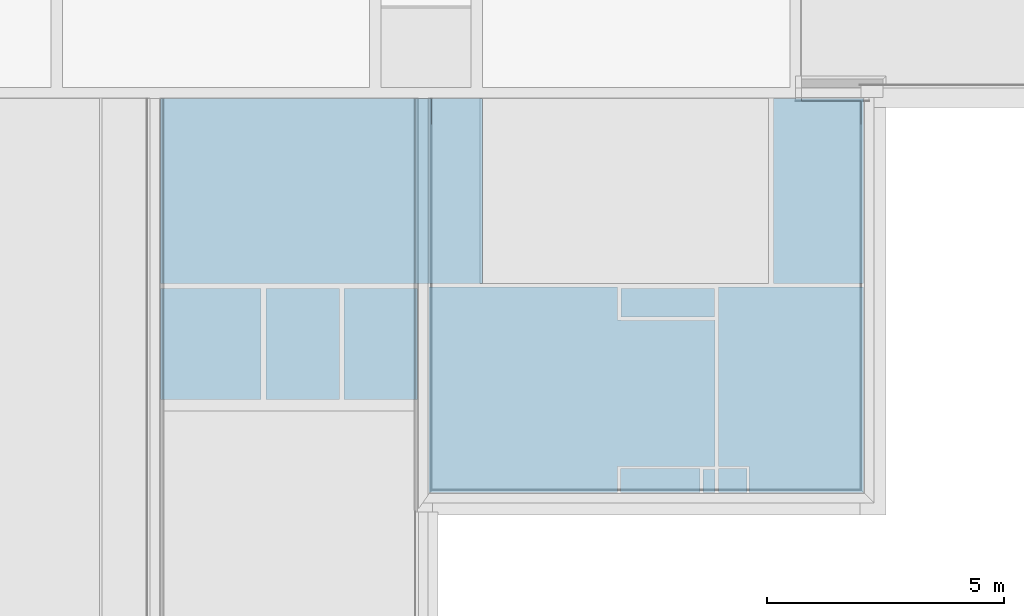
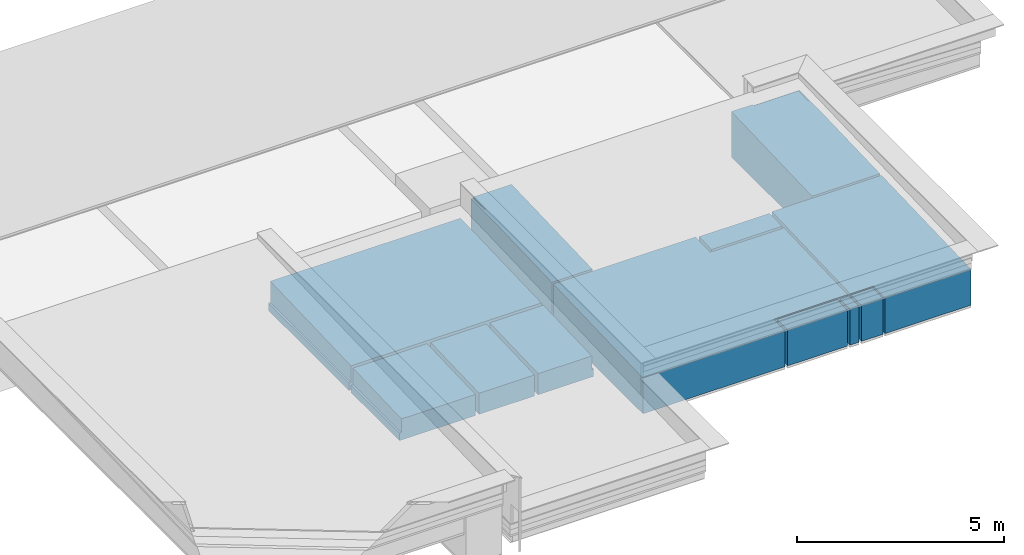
# One storey, part 7 of 13: 1 building element part, 1 element without a shape of its own.
"""IFC2X3 building model written with IfcOpenShell, lengths in metres."""

from ifc_helpers import new_model, entity, si_unit, converted_unit, derived_unit, money_unit, direction, frame, origin_with_axes, place, context, subcontext, project, spatial, polyline, outline, extrude, boolean, faceted_brep, material, type_object, element, aggregate, save


model = new_model("IFC2X3")

# Units and contexts
model_context = context("Model", 3, precision=1e-05, world=origin_with_axes(), true_north=direction((0.0, 1.0)))
body_context = subcontext(model_context, "Body", "Model", "MODEL_VIEW")
ifc_project = project(units=[si_unit("LENGTHUNIT", "METRE"), si_unit("AREAUNIT", "SQUARE_METRE"), si_unit("VOLUMEUNIT", "CUBIC_METRE"), converted_unit("PLANEANGLEUNIT", "DEGREE", entity("IfcPlaneAngleMeasure", 0.0174532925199), si_unit("PLANEANGLEUNIT", "RADIAN"), dimensions=[0, 0, 0, 0, 0, 0, 0]), money_unit("CHF"), converted_unit("TIMEUNIT", "Year", entity("IfcTimeMeasure", 31556926.0), si_unit("TIMEUNIT", "SECOND"), dimensions=[0, 0, 1, 0, 0, 0, 0]), si_unit("MASSUNIT", "GRAM", prefix="KILO"), si_unit("THERMODYNAMICTEMPERATUREUNIT", "DEGREE_CELSIUS"), si_unit("LUMINOUSINTENSITYUNIT", "LUMEN"), si_unit("ENERGYUNIT", "JOULE", prefix="MEGA"), derived_unit("THERMALCONDUCTANCEUNIT", [(si_unit("POWERUNIT", "WATT"), 1), (si_unit("LENGTHUNIT", "METRE"), -1), (si_unit("THERMODYNAMICTEMPERATUREUNIT", "KELVIN"), -1)]), derived_unit("SPECIFICHEATCAPACITYUNIT", [(si_unit("ENERGYUNIT", "JOULE"), 1), (si_unit("MASSUNIT", "GRAM", prefix="KILO"), -1), (si_unit("THERMODYNAMICTEMPERATUREUNIT", "KELVIN"), -1)]), derived_unit("MASSDENSITYUNIT", [(si_unit("MASSUNIT", "GRAM", prefix="KILO"), 1), (si_unit("VOLUMEUNIT", "CUBIC_METRE"), -1)])], contexts=[model_context])

# Site, building, storey
site_placement = place(None, origin_with_axes())
site = spatial("IfcSite", under=ifc_project, at=site_placement, Name="Site", CompositionType="ELEMENT")
building_placement = place(site_placement, origin_with_axes())
building = spatial("IfcBuilding", under=site, at=building_placement, Name="Bâtiment", CompositionType="ELEMENT")
storey_placement = place(building_placement, frame((0.0, 0.0, 3.0), z_axis=(0.0, 0.0, 1.0), x_axis=(1.0, 0.0, 0.0)))
storey = spatial("IfcBuildingStorey", under=building, at=storey_placement, Name="Toitures", CompositionType="ELEMENT", Elevation=3.0)

# Slab, building element part
slab_type = type_object("IfcSlabType", Name="Plafond dalles minérale 2570", PredefinedType="FLOOR")
slab_placement = place(storey_placement, frame((23.4594696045, 14.8800000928, 2.07), z_axis=(0.0, 0.0, 1.0), x_axis=(1.0, 0.0, 0.0)))
slab = element("IfcSlab", 1, at=slab_placement, inside=storey, type_object=slab_type, Name="Faux plafonds suspendus", PredefinedType="FLOOR")
ifc_material = material(Name="Vide faux plafond")
building_element_part_placement = place(slab_placement, origin_with_axes())
building_element_part = element("IfcBuildingElementPart", 2, at=building_element_part_placement, material=ifc_material, Name="Vide faux plafond", context=body_context, shape_type="CSG", body=[
    boolean("DIFFERENCE", boolean("DIFFERENCE", boolean("DIFFERENCE", boolean("DIFFERENCE", boolean("DIFFERENCE", extrude(outline(polyline([(0.0, 0.0), (-4.64999982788, 0.0), (-4.64999982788, -6.33987439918), (0.770000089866, -6.33987439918), (0.770000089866, -3.89987444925), (1.01000026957, -3.89987444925), (1.01000026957, -8.29987443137), (10.1700001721, -8.29987443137), (10.1700001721, 0.0), (8.27000015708, 0.0), (8.27000022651, -3.89987433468), (2.1400002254, -3.89987444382), (2.14000015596, -5.37518882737e-08), (1.90000034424, 0.0), (0.0, 0.0)])), frame((0.0, 0.0, -2.5), z_axis=(0.0, 0.0, 1.0), x_axis=(1.0, 0.0, 0.0)), (0.0, 0.0, 1.0), 2.5), faceted_brep([(7.11000017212, -7.74987443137, -2.56), (7.11000017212, -3.96987443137, -2.56), (10.1700001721, -3.96987443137, -2.56), (10.1700001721, -3.89987443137, -2.56), (8.27000022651, -3.89987443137, -2.56), (2.1400002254, -3.89987444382, -2.56), (2.14000015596, -5.37518882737e-08, -2.56), (2.09000008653, -1.07356783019e-07, -2.56), (2.09000008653, -3.89987443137, -2.56), (1.01000026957, -3.89987443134, -2.56), (1.01000026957, -3.96987443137, -2.56), (4.98000017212, -3.96987443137, -2.56), (4.98000017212, -4.66987443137, -2.56), (5.06000017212, -4.66987443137, -2.56), (5.06000017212, -4.67987443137, -2.56), (7.03000017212, -4.67987443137, -2.56), (7.03000017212, -4.66987443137, -2.56), (7.04000017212, -4.66987443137, -2.56), (7.04000017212, -7.74987443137, -2.56), (6.73300017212, -7.74987443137, -2.56), (6.72000017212, -7.74987443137, -2.56), (4.99300017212, -7.74987443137, -2.56), (4.98000017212, -7.74987443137, -2.56), (4.98000017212, -8.29987443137, -2.56), (5.05000017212, -8.29987443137, -2.56), (5.05000017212, -7.79987443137, -2.56), (6.72000017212, -7.79987443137, -2.56), (6.72000017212, -8.29987443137, -2.56), (6.79000017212, -8.29987443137, -2.56), (6.79000017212, -7.81987443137, -2.56), (7.04000017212, -7.81987443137, -2.56), (7.04000017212, -8.29987443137, -2.56), (7.11000017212, -8.29987443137, -2.56), (7.11000017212, -7.79987443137, -2.56), (7.71000017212, -7.79987443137, -2.56), (7.71000017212, -8.29987443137, -2.56), (7.76000017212, -8.29987443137, -2.56), (7.76000017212, -7.74987443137, -2.56), (7.74700017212, -7.74987443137, -2.56), (7.03000017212, -3.99987443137, -2.56), (7.03000017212, -4.59987443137, -2.56), (5.06000017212, -4.59987443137, -2.56), (5.06000017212, -4.21287444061, -2.56), (5.36000017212, -4.21287444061, -2.56), (5.36000017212, -3.99987443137, -2.56), (7.11000017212, -7.74987443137, -2.57), (7.11000017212, -3.96987443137, -2.57), (10.1700001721, -3.96987443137, -2.57), (10.1700001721, -3.89987443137, -2.57), (8.27000022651, -3.89987443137, -2.57), (2.1400002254, -3.89987444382, -2.57), (2.14000015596, -5.37518882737e-08, -2.57), (2.09000008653, -1.07356783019e-07, -2.57), (2.09000008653, -3.89987443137, -2.57), (1.01000026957, -3.89987443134, -2.57), (1.01000026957, -3.96987443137, -2.57), (4.98000017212, -3.96987443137, -2.57), (4.98000017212, -4.66987443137, -2.57), (5.06000017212, -4.66987443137, -2.57), (5.06000017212, -4.67987443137, -2.57), (7.03000017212, -4.67987443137, -2.57), (7.03000017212, -4.66987443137, -2.57), (7.04000017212, -4.66987443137, -2.57), (7.04000017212, -7.74987443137, -2.57), (6.73300017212, -7.74987443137, -2.57), (6.72000017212, -7.74987443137, -2.57), (4.99300017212, -7.74987443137, -2.57), (4.98000017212, -7.74987443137, -2.57), (4.98000017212, -8.29987443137, -2.57), (5.05000017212, -8.29987443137, -2.57), (5.05000017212, -7.79987443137, -2.57), (6.72000017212, -7.79987443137, -2.57), (6.72000017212, -8.29987443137, -2.57), (6.79000017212, -8.29987443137, -2.57), (6.79000017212, -7.81987443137, -2.57), (7.04000017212, -7.81987443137, -2.57), (7.04000017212, -8.29987443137, -2.57), (7.11000017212, -8.29987443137, -2.57), (7.11000017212, -7.79987443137, -2.57), (7.71000017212, -7.79987443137, -2.57), (7.71000017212, -8.29987443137, -2.57), (7.76000017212, -8.29987443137, -2.57), (7.76000017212, -7.74987443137, -2.57), (7.74700017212, -7.74987443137, -2.57), (7.03000017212, -3.99987443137, -2.57), (7.03000017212, -4.59987443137, -2.57), (5.06000017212, -4.59987443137, -2.57), (5.06000017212, -4.21287444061, -2.57), (5.36000017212, -4.21287444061, -2.57), (5.36000017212, -3.99987443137, -2.57)], [[[0, 1, 2, 3, 4, 5, 6, 7, 8, 9, 10, 11, 12, 13, 14, 15, 16, 17, 18, 19, 20, 21, 22, 23, 24, 25, 26, 27, 28, 29, 30, 31, 32, 33, 34, 35, 36, 37, 38], [39, 40, 41, 42, 43, 44]], [[45, 46, 1, 0]], [[47, 2, 1, 46]], [[2, 47, 48, 3]], [[3, 48, 49, 4]], [[4, 49, 50, 5]], [[51, 6, 5, 50]], [[51, 52, 7, 6]], [[8, 7, 52, 53]], [[8, 53, 54, 9]], [[10, 9, 54, 55]], [[10, 55, 56, 11]], [[11, 56, 57, 12]], [[12, 57, 58, 13]], [[13, 58, 59, 14]], [[14, 59, 60, 15]], [[15, 60, 61, 16]], [[16, 61, 62, 17]], [[17, 62, 63, 18]], [[18, 63, 64, 19]], [[19, 64, 65, 20]], [[20, 65, 66, 21]], [[21, 66, 67, 22]], [[22, 67, 68, 23]], [[24, 23, 68, 69]], [[70, 25, 24, 69]], [[71, 26, 25, 70]], [[72, 27, 26, 71]], [[72, 73, 28, 27]], [[28, 73, 74, 29]], [[29, 74, 75, 30]], [[30, 75, 76, 31]], [[32, 31, 76, 77]], [[33, 32, 77, 78]], [[34, 33, 78, 79]], [[35, 34, 79, 80]], [[81, 36, 35, 80]], [[81, 82, 37, 36]], [[82, 83, 38, 37]], [[83, 45, 0, 38]], [[40, 39, 84, 85]], [[41, 40, 85, 86]], [[42, 41, 86, 87]], [[43, 42, 87, 88]], [[44, 43, 88, 89]], [[39, 44, 89, 84]], [[82, 81, 80, 79, 78, 77, 76, 75, 74, 73, 72, 71, 70, 69, 68, 67, 66, 65, 64, 63, 62, 61, 60, 59, 58, 57, 56, 55, 54, 53, 52, 51, 50, 49, 48, 47, 46, 45, 83], [84, 89, 88, 87, 86, 85]]])), faceted_brep([(0.770000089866, -3.89987443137, -2.57), (0.770000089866, -3.89987443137, -2.56), (0.770000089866, -3.99987443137, -2.56), (0.770000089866, -3.99987443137, -2.57), (-4.64999982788, -3.89987443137, -2.57), (-4.64999982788, -3.89987443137, -2.56), (-4.64999982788, -3.99987443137, -2.56), (-2.52999982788, -3.99987443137, -2.56), (-2.52999982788, -6.33987439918, -2.56), (-2.42999982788, -6.33987439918, -2.56), (-2.42999982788, -3.99987443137, -2.56), (-0.879999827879, -3.99987443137, -2.56), (-0.879999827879, -6.33987439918, -2.56), (-0.779999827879, -6.33987439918, -2.56), (-0.779999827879, -3.99987443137, -2.56), (-0.779999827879, -3.99987443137, -2.57), (-0.779999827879, -6.33987439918, -2.57), (-0.879999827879, -6.33987439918, -2.57), (-0.879999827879, -3.99987443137, -2.57), (-2.42999982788, -3.99987443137, -2.57), (-2.42999982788, -6.33987439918, -2.57), (-2.52999982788, -6.33987439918, -2.57), (-2.52999982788, -3.99987443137, -2.57), (-4.64999982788, -3.99987443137, -2.57)], [[[0, 1, 2, 3]], [[1, 0, 4, 5]], [[1, 5, 6, 7, 8, 9, 10, 11, 12, 13, 14, 2]], [[15, 3, 2, 14]], [[4, 0, 3, 15, 16, 17, 18, 19, 20, 21, 22, 23]], [[5, 4, 23, 6]], [[22, 7, 6, 23]], [[21, 8, 7, 22]], [[8, 21, 20, 9]], [[10, 9, 20, 19]], [[11, 10, 19, 18]], [[12, 11, 18, 17]], [[17, 16, 13, 12]], [[13, 16, 15, 14]]])), faceted_brep([(0.770000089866, -3.89987443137, -2.56), (0.770000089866, -3.89987443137, -2.5), (0.770000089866, -3.99987443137, -2.5), (0.770000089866, -3.99987443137, -2.56), (-4.64999982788, -3.89987443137, -2.5), (-4.64999982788, -3.89987443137, -2.56), (-0.879999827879, -6.33987439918, -2.5), (-0.779999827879, -6.33987439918, -2.5), (-0.779999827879, -3.99987443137, -2.5), (-4.64999982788, -3.99987443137, -2.5), (-2.52999982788, -3.99987443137, -2.5), (-2.52999982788, -6.33987439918, -2.5), (-2.42999982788, -6.33987439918, -2.5), (-2.42999982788, -3.99987443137, -2.5), (-0.879999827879, -3.99987443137, -2.5), (-0.779999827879, -3.99987443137, -2.56), (-2.42999982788, -6.33987439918, -2.56), (-2.52999982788, -6.33987439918, -2.56), (-2.52999982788, -3.99987443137, -2.56), (-4.64999982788, -3.99987443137, -2.56), (-0.779999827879, -6.33987439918, -2.56), (-0.879999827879, -6.33987439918, -2.56), (-0.879999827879, -3.99987443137, -2.56), (-2.42999982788, -3.99987443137, -2.56)], [[[0, 1, 2, 3]], [[4, 1, 0, 5]], [[6, 7, 8, 2, 1, 4, 9, 10, 11, 12, 13, 14]], [[15, 3, 2, 8]], [[16, 17, 18, 19, 5, 0, 3, 15, 20, 21, 22, 23]], [[4, 5, 19, 9]], [[21, 20, 7, 6]], [[15, 8, 7, 20]], [[9, 19, 18, 10]], [[10, 18, 17, 11]], [[11, 17, 16, 12]], [[16, 23, 13, 12]], [[23, 22, 14, 13]], [[22, 21, 6, 14]]])), faceted_brep([(7.04000017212, -8.29987443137, -2.5), (7.11000017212, -8.29987443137, -2.5), (7.11000017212, -7.79987443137, -2.5), (7.71000017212, -7.79987443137, -2.5), (7.71000017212, -8.29987443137, -2.5), (7.76000017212, -8.29987443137, -2.5), (7.76000017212, -7.74987443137, -2.5), (7.74700017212, -7.74987443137, -2.5), (7.11000017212, -7.74987443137, -2.5), (7.11000017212, -3.96987443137, -2.5), (10.1700001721, -3.96987443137, -2.5), (10.1700001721, -3.89987443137, -2.5), (8.27000022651, -3.89987443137, -2.5), (2.1400002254, -3.89987444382, -2.5), (2.14000015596, -5.37518882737e-08, -2.5), (2.09000008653, -1.07356783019e-07, -2.5), (2.09000008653, -3.89987443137, -2.5), (1.01000026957, -3.89987443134, -2.5), (1.01000026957, -3.96987443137, -2.5), (4.98000017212, -3.96987443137, -2.5), (4.98000017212, -4.66987443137, -2.5), (5.06000017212, -4.66987443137, -2.5), (5.06000017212, -4.67987443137, -2.5), (7.03000017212, -4.67987443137, -2.5), (7.03000017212, -4.66987443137, -2.5), (7.04000017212, -4.66987443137, -2.5), (7.04000017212, -7.74987443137, -2.5), (6.73300017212, -7.74987443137, -2.5), (6.72000017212, -7.74987443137, -2.5), (4.99300017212, -7.74987443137, -2.5), (4.98000017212, -7.74987443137, -2.5), (4.98000017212, -8.29987443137, -2.5), (5.05000017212, -8.29987443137, -2.5), (5.05000017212, -7.79987443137, -2.5), (6.72000017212, -7.79987443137, -2.5), (6.72000017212, -8.29987443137, -2.5), (6.79000017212, -8.29987443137, -2.5), (6.79000017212, -7.81987443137, -2.5), (7.04000017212, -7.81987443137, -2.5), (5.36000017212, -4.21287444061, -2.5), (5.36000017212, -3.99987443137, -2.5), (7.03000017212, -3.99987443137, -2.5), (7.03000017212, -4.59987443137, -2.5), (5.06000017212, -4.59987443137, -2.5), (5.06000017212, -4.21287444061, -2.5), (7.04000017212, -8.29987443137, -2.56), (7.11000017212, -8.29987443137, -2.56), (7.11000017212, -7.79987443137, -2.56), (7.71000017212, -7.79987443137, -2.56), (7.71000017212, -8.29987443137, -2.56), (7.76000017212, -8.29987443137, -2.56), (7.76000017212, -7.74987443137, -2.56), (7.74700017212, -7.74987443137, -2.56), (7.11000017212, -7.74987443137, -2.56), (7.11000017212, -3.96987443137, -2.56), (10.1700001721, -3.96987443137, -2.56), (10.1700001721, -3.89987443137, -2.56), (8.27000022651, -3.89987443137, -2.56), (2.1400002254, -3.89987444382, -2.56), (2.14000015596, -5.37518882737e-08, -2.56), (2.09000008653, -1.07356783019e-07, -2.56), (2.09000008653, -3.89987443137, -2.56), (1.01000026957, -3.89987443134, -2.56), (1.01000026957, -3.96987443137, -2.56), (4.98000017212, -3.96987443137, -2.56), (4.98000017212, -4.66987443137, -2.56), (5.06000017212, -4.66987443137, -2.56), (5.06000017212, -4.67987443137, -2.56), (7.03000017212, -4.67987443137, -2.56), (7.03000017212, -4.66987443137, -2.56), (7.04000017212, -4.66987443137, -2.56), (7.04000017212, -7.74987443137, -2.56), (6.73300017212, -7.74987443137, -2.56), (6.72000017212, -7.74987443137, -2.56), (4.99300017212, -7.74987443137, -2.56), (4.98000017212, -7.74987443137, -2.56), (4.98000017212, -8.29987443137, -2.56), (5.05000017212, -8.29987443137, -2.56), (5.05000017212, -7.79987443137, -2.56), (6.72000017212, -7.79987443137, -2.56), (6.72000017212, -8.29987443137, -2.56), (6.79000017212, -8.29987443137, -2.56), (6.79000017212, -7.81987443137, -2.56), (7.04000017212, -7.81987443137, -2.56), (5.36000017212, -4.21287444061, -2.56), (5.36000017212, -3.99987443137, -2.56), (7.03000017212, -3.99987443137, -2.56), (7.03000017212, -4.59987443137, -2.56), (5.06000017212, -4.59987443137, -2.56), (5.06000017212, -4.21287444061, -2.56)], [[[0, 1, 2, 3, 4, 5, 6, 7, 8, 9, 10, 11, 12, 13, 14, 15, 16, 17, 18, 19, 20, 21, 22, 23, 24, 25, 26, 27, 28, 29, 30, 31, 32, 33, 34, 35, 36, 37, 38], [39, 40, 41, 42, 43, 44]], [[1, 0, 45, 46]], [[46, 47, 2, 1]], [[47, 48, 3, 2]], [[48, 49, 4, 3]], [[50, 5, 4, 49]], [[6, 5, 50, 51]], [[7, 6, 51, 52]], [[8, 7, 52, 53]], [[9, 8, 53, 54]], [[55, 10, 9, 54]], [[10, 55, 56, 11]], [[12, 11, 56, 57]], [[12, 57, 58, 13]], [[59, 14, 13, 58]], [[59, 60, 15, 14]], [[61, 16, 15, 60]], [[62, 17, 16, 61]], [[18, 17, 62, 63]], [[64, 19, 18, 63]], [[65, 20, 19, 64]], [[66, 21, 20, 65]], [[67, 22, 21, 66]], [[68, 23, 22, 67]], [[69, 24, 23, 68]], [[70, 25, 24, 69]], [[71, 26, 25, 70]], [[72, 27, 26, 71]], [[73, 28, 27, 72]], [[74, 29, 28, 73]], [[75, 30, 29, 74]], [[76, 31, 30, 75]], [[32, 31, 76, 77]], [[32, 77, 78, 33]], [[33, 78, 79, 34]], [[34, 79, 80, 35]], [[80, 81, 36, 35]], [[82, 37, 36, 81]], [[83, 38, 37, 82]], [[45, 0, 38, 83]], [[84, 85, 40, 39]], [[85, 86, 41, 40]], [[86, 87, 42, 41]], [[87, 88, 43, 42]], [[88, 89, 44, 43]], [[89, 84, 39, 44]], [[59, 58, 57, 56, 55, 54, 53, 52, 51, 50, 49, 48, 47, 46, 45, 83, 82, 81, 80, 79, 78, 77, 76, 75, 74, 73, 72, 71, 70, 69, 68, 67, 66, 65, 64, 63, 62, 61, 60], [88, 87, 86, 85, 84, 89]]])), faceted_brep([(0.770000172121, -3.99987443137, -2.28), (0.770000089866, -3.99987443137, -2.5), (0.770000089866, -3.89987444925, -2.5), (0.770000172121, -3.89987443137, -2.28), (0.770000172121, -3.89987443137, -2.27), (0.770000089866, -3.89987444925, 0.0), (0.770000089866, -6.33987439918, 0.0), (0.770000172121, -6.33987439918, -2.28), (0.715000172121, -3.99987443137, -2.28), (0.715000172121, -3.99987443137, -1.79569560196), (-0.779999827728, -3.99987443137, -1.79569560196), (-0.779999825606, -3.99987443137, -2.5), (-0.779999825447, -6.33987439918, -2.5), (-0.879999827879, -6.33987439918, -2.5), (-0.879999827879, -3.99987443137, -2.5), (-2.42999982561, -3.99987443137, -2.5), (-2.42999982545, -6.33987439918, -2.5), (-2.52999982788, -6.33987439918, -2.5), (-2.52999982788, -3.99987443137, -2.5), (-4.64999982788, -3.99987443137, -2.5), (-4.64999982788, -3.89987443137, -2.5), (0.715000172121, -3.8998744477, -1.79219560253), (0.715000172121, -3.89987443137, -2.28), (-4.64999979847, -3.89987443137, -2.28), (-4.59499979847, -3.89987443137, -2.28), (-4.59499979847, -3.89987443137, -1.79219560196), (0.770000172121, -8.8065945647e-08, -2.28), (0.770000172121, -8.8065945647e-08, -2.27), (1.01000026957, -3.89987444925, 0.0), (1.01000017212, -3.89987443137, -2.27), (1.01000026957, -8.29987443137, 0.0), (10.1700001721, -8.29987443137, 0.0), (10.1700001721, 0.0, 0.0), (8.27000015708, 0.0, 0.0), (8.27000022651, -3.89987433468, 0.0), (2.1400002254, -3.89987444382, 0.0), (2.14000015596, -5.37518882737e-08, 0.0), (1.90000034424, 0.0, 0.0), (0.0, 0.0, 0.0), (-4.64999982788, 0.0, 0.0), (-4.64999982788, -6.33987439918, 0.0), (0.715000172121, -6.33987439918, -2.28), (-4.64999979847, -6.33987439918, -2.28), (-4.59499979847, -6.33987439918, -2.28), (-4.59499979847, -6.33987439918, -1.87759560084), (-2.52999982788, -6.33987439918, -1.87759560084), (-2.42999982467, -6.33987439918, -1.87759560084), (-0.879999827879, -6.33987439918, -1.87759560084), (-0.779999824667, -6.33987439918, -1.87759560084), (0.715000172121, -6.33987439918, -1.87759560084), (-0.879999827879, -3.99987443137, -1.79569560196), (-2.42999982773, -3.99987443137, -1.79569560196), (-2.52999982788, -3.99987443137, -1.79569560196), (-4.59499979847, -3.99987443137, -2.28), (-4.64999979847, -3.99987443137, -2.28), (-4.59499979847, -3.99987443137, -1.79569560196), (-4.64999979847, -8.8065945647e-08, -2.28), (0.715000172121, -8.8065945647e-08, -1.65569999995), (0.715000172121, -8.8065945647e-08, -2.28), (-4.59499979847, -8.8065945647e-08, -2.28), (-4.59499979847, -8.8065945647e-08, -1.65569999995), (0.0, -8.8065945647e-08, -1.65569999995), (1.90000034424, -6.83405616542e-08, -1.15569999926), (1.06500017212, 0.0, -1.15569999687), (1.06500017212, 0.0, -1.18963966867), (1.01000017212, -5.37068345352e-08, -1.18963966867), (1.01000017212, -2.26407070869e-08, -2.27), (1.01000026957, -8.29987443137, -1.44619560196), (1.01000026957, -3.89987444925, -2.5), (1.01000026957, -3.96987443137, -2.5), (1.01000026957, -3.96987443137, -1.29464560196), (7.11000017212, -8.29987443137, -1.44619560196), (7.71000017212, -8.29987443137, -1.44619560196), (7.71000017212, -8.29987443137, -2.5), (7.76000017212, -8.29987443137, -2.5), (7.76000017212, -8.29987443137, -1.44619560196), (10.1700001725, -8.29987443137, -1.44619560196), (4.98000017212, -8.29987443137, -1.44619560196), (4.98000017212, -8.29987443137, -2.5), (5.05000017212, -8.29987443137, -2.5), (5.05000017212, -8.29987443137, -1.44619560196), (6.72000017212, -8.29987443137, -1.44619560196), (6.72000017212, -8.29987443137, -2.5), (6.79000017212, -8.29987443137, -2.5), (6.79000017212, -8.29987443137, -1.44619560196), (7.04000017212, -8.29987443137, -1.44619560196), (7.04000017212, -8.29987443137, -2.5), (7.11000017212, -8.29987443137, -2.5), (10.1700001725, -3.96987443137, -1.29464560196), (10.1700001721, -3.96987443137, -2.5), (10.1700001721, -3.89987443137, -2.5), (10.1700001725, -3.89987444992, -1.29219560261), (10.1700001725, -0.969704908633, -1.18963966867), (10.1700001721, 0.0, -1.18963966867), (8.86000017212, 0.0, -1.18963966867), (8.86000017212, 0.0, -1.15569999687), (8.27000015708, 0.0, -1.15569999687), (8.27000022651, -3.89987441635, -1.29219560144), (2.14000021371, -3.89987443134, -1.29219560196), (8.27000022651, -3.89987433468, -2.5), (2.1400002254, -3.89987444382, -2.5), (2.14000008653, -3.89987443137, -1.80977391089), (2.14000011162, -8.79833343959e-08, -1.15569999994), (1.01000019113, -0.969704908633, -1.18963966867), (1.06500017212, -0.969704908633, -1.18963966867), (1.01000026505, -3.89987444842, -1.29219560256), (2.09000008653, -3.89987443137, -1.80977391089), (2.09000008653, -3.89987443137, -2.5), (2.09000008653, -1.07356783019e-07, -2.5), (2.14000015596, -5.37518882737e-08, -2.5), (7.11000017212, -3.96987443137, -2.5), (7.11000017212, -7.74987443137, -2.5), (7.74700017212, -7.74987443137, -2.5), (7.76000017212, -7.74987443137, -2.5), (7.71000017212, -7.79987443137, -2.5), (7.11000017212, -7.79987443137, -2.5), (7.04000017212, -7.81987443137, -2.5), (6.79000017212, -7.81987443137, -2.5), (6.72000017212, -7.79987443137, -2.5), (5.05000017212, -7.79987443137, -2.5), (4.98000017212, -7.74987443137, -2.5), (4.99300017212, -7.74987443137, -2.5), (6.72000017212, -7.74987443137, -2.5), (6.73300017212, -7.74987443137, -2.5), (7.04000017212, -7.74987443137, -2.5), (7.04000017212, -4.66987443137, -2.5), (7.03000017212, -4.66987443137, -2.5), (7.03000017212, -4.67987443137, -2.5), (5.06000017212, -4.67987443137, -2.5), (5.06000017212, -4.66987443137, -2.5), (4.98000017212, -4.66987443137, -2.5), (4.98000017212, -3.96987443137, -2.5), (5.36000017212, -4.21287444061, -2.5), (5.06000017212, -4.21287444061, -2.5), (5.06000017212, -4.59987443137, -2.5), (7.03000017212, -4.59987443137, -2.5), (7.03000017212, -3.99987443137, -2.5), (5.36000017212, -3.99987443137, -2.5), (4.98000017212, -3.96987443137, -1.29464560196), (7.04000017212, -4.66987443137, -1.31914560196), (7.04000017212, -7.74987443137, -1.42694560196), (6.73300017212, -7.74987443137, -1.42694560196), (6.72000017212, -7.74987443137, -1.42694560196), (4.99300017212, -7.74987443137, -1.42694560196), (4.98000017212, -7.74987443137, -1.42694560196), (4.98000017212, -4.66987443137, -1.31914560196), (5.06000017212, -4.66987443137, -1.31914560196), (5.06000017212, -4.67987443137, -1.31949560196), (7.03000017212, -4.67987443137, -1.31949560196), (7.03000017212, -4.66987443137, -1.31914560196), (7.71000017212, -7.79987443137, -1.42869560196), (7.11000017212, -7.79987443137, -1.42869560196), (7.76000017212, -7.74987443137, -1.42694560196), (7.74700017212, -7.74987443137, -1.42694560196), (7.11000017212, -7.74987443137, -1.42694560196), (7.11000017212, -3.96987443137, -1.29464560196), (5.05000017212, -7.79987443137, -1.42869560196), (6.72000017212, -7.79987443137, -1.42869560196), (6.79000017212, -7.81987443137, -1.42939560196), (7.04000017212, -7.81987443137, -1.42939560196), (8.86000017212, -0.0518744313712, -1.15751560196), (10.1150001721, -0.0518744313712, -1.15751560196), (10.1150001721, -0.969704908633, -1.18963966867), (10.1150001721, -0.0518744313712, -1.18963966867), (8.86000017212, -0.0518744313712, -1.18963966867), (2.14000008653, -1.07356783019e-07, -1.80977391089), (2.09000008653, -1.07356783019e-07, -1.80977391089), (5.36000017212, -4.21287444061, -2.12), (5.06000017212, -4.21287444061, -2.12), (5.06000017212, -3.99987443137, -1.29569560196), (5.06000017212, -4.59987443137, -1.31669560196), (5.06000017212, -3.99987443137, -2.12), (7.03000017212, -4.59987443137, -1.31669560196), (7.03000017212, -3.99987443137, -1.29569560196), (5.36000017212, -3.99987443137, -2.12)], [[[0, 1, 2, 3, 4, 5, 6, 7]], [[1, 0, 8, 9, 10, 11]], [[11, 12, 13, 14, 15, 16, 17, 18, 19, 20, 2, 1]], [[21, 22, 3, 2, 20, 23, 24, 25]], [[4, 3, 26, 27]], [[28, 5, 4, 29]], [[30, 31, 32, 33, 34, 35, 36, 37, 38, 39, 40, 6, 5, 28]], [[41, 7, 6, 40, 42, 43, 44, 45, 17, 16, 46, 47, 13, 12, 48, 49]], [[0, 7, 41, 8]], [[41, 49, 9, 8]], [[49, 48, 10, 9]], [[12, 11, 10, 48]], [[50, 14, 13, 47]], [[51, 15, 14, 50]], [[46, 16, 15, 51]], [[45, 52, 18, 17]], [[53, 54, 19, 18, 52, 55]], [[20, 19, 54, 42, 40, 39, 56, 23]], [[22, 21, 57, 58]], [[3, 22, 58, 26]], [[24, 23, 56, 59]], [[25, 24, 59, 60]], [[61, 57, 21, 25, 60]], [[38, 37, 62, 63, 64, 65, 66, 27, 26, 58, 57, 61]], [[29, 4, 27, 66]], [[67, 30, 28, 29, 68, 69, 70]], [[71, 72, 73, 74, 75, 76, 31, 30, 67, 77, 78, 79, 80, 81, 82, 83, 84, 85, 86, 87]], [[88, 89, 90, 91, 92, 93, 32, 31, 76]], [[32, 93, 94, 95, 96, 33]], [[97, 34, 33, 96]], [[98, 35, 34, 97, 99, 100, 101]], [[36, 35, 98, 102]], [[37, 36, 102, 62]], [[39, 38, 61, 60, 59, 56]], [[54, 53, 43, 42]], [[53, 55, 44, 43]], [[55, 52, 45, 44]], [[50, 47, 46, 51]], [[103, 104, 63, 62, 102, 98, 105]], [[104, 64, 63]], [[104, 103, 65, 64]], [[66, 65, 103, 105, 29]], [[68, 29, 105, 98, 101, 106, 107]], [[108, 109, 100, 99, 90, 89, 110, 111, 112, 113, 74, 73, 114, 115, 87, 86, 116, 117, 83, 82, 118, 119, 79, 78, 120, 121, 122, 123, 124, 125, 126, 127, 128, 129, 130, 131, 69, 68, 107], [132, 133, 134, 135, 136, 137]], [[138, 70, 69, 131]], [[139, 140, 141, 142, 143, 144, 77, 67, 70, 138, 145, 146, 147, 148, 149]], [[150, 72, 71, 151]], [[150, 114, 73, 72]], [[74, 113, 152, 75]], [[152, 153, 154, 155, 88, 76, 75]], [[77, 144, 120, 78]], [[80, 79, 119, 156]], [[157, 81, 80, 156]], [[157, 118, 82, 81]], [[117, 158, 84, 83]], [[84, 158, 159, 85]], [[86, 85, 159, 116]], [[71, 87, 115, 151]], [[89, 88, 155, 110]], [[90, 99, 97, 91]], [[160, 161, 162, 92, 91, 97, 96, 95]], [[162, 163, 164, 94, 93, 92]], [[94, 164, 160, 95]], [[100, 109, 165, 101]], [[166, 106, 101, 165]], [[107, 106, 166, 108]], [[109, 108, 166, 165]], [[111, 110, 155, 154]], [[112, 111, 154, 153]], [[113, 112, 153, 152]], [[151, 115, 114, 150]], [[116, 159, 158, 117]], [[156, 119, 118, 157]], [[144, 143, 121, 120]], [[143, 142, 122, 121]], [[142, 141, 123, 122]], [[141, 140, 124, 123]], [[140, 139, 125, 124]], [[139, 149, 126, 125]], [[149, 148, 127, 126]], [[148, 147, 128, 127]], [[147, 146, 129, 128]], [[146, 145, 130, 129]], [[145, 138, 131, 130]], [[133, 132, 167, 168]], [[169, 170, 134, 133, 168, 171]], [[135, 134, 170, 172]], [[136, 135, 172, 173]], [[171, 174, 137, 136, 173, 169]], [[132, 137, 174, 167]], [[164, 163, 161, 160]], [[161, 163, 162]], [[167, 174, 171, 168]], [[172, 170, 169, 173]]])),
])
aggregate(slab, [building_element_part])

save(model, "model.ifc")
